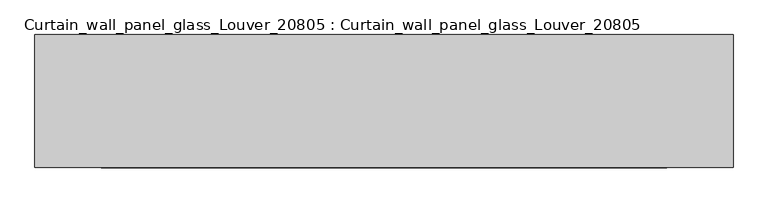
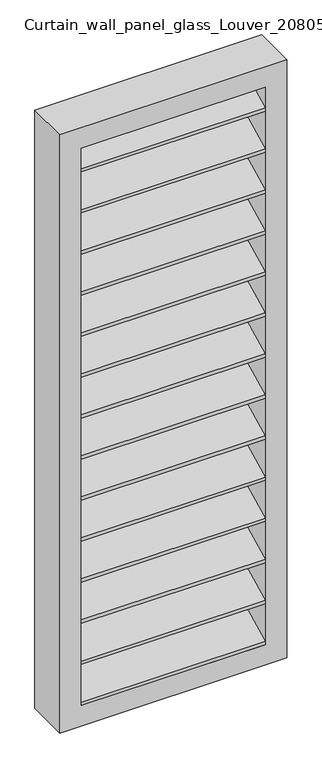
"""IFC4 building model written with IfcOpenShell, lengths in millimetres: plate geometry, Curtain_wall_panel_glass_Louver_20805 : Curtain_wall_panel_glass_Louver_20805."""

from ifc_helpers import new_model, si_unit, frame, origin, place, context, project, spatial, polyline, outline, extrude, source, transform, mapped, element, save


def curtain_wall_panel_glass_louver_20805_curtain_wall_panel_0f8e40a1(model_context):
    return source(origin(), model_context, "Body", "SweptSolid", [
        extrude(outline(polyline([(200.0, 199.3849981), (0.0, 100.0), (0.0, 116.7499328), (200.0, 216.1349309), (200.0, 199.3849981)])), frame((-425.0, 0.0, 0.0), z_axis=(1.0, 0.0, 0.0), x_axis=(0.0, 1.0, 0.0)), (0.0, 0.0, 1.0), 850.0),
        extrude(outline(polyline([(200.0, 2808.2500672), (0.0, 2708.8650691), (0.0, 2725.6150019), (200.0, 2825.0), (200.0, 2808.2500672)])), frame((-425.0, 0.0, 0.0), z_axis=(1.0, 0.0, 0.0), x_axis=(0.0, 1.0, 0.0)), (0.0, 0.0, 1.0), 850.0),
        extrude(outline(polyline([(200.0, 400.0669265), (0.0, 300.6819284), (0.0, 317.4318612), (200.0, 416.8168593), (200.0, 400.0669265)])), frame((-425.0, 0.0, 0.0), z_axis=(1.0, 0.0, 0.0), x_axis=(0.0, 1.0, 0.0)), (0.0, 0.0, 1.0), 850.0),
        extrude(outline(polyline([(200.0, 600.7488549), (0.0, 501.3638568), (0.0, 518.1137896), (200.0, 617.4987877), (200.0, 600.7488549)])), frame((-425.0, 0.0, 0.0), z_axis=(1.0, 0.0, 0.0), x_axis=(0.0, 1.0, 0.0)), (0.0, 0.0, 1.0), 850.0),
        extrude(outline(polyline([(200.0, 801.4307833), (0.0, 702.0457852), (0.0, 718.795718), (200.0, 818.1807161), (200.0, 801.4307833)])), frame((-425.0, 0.0, 0.0), z_axis=(1.0, 0.0, 0.0), x_axis=(0.0, 1.0, 0.0)), (0.0, 0.0, 1.0), 850.0),
        extrude(outline(polyline([(200.0, 1002.1127117), (0.0, 902.7277136), (0.0, 919.4776464), (200.0, 1018.8626445), (200.0, 1002.1127117)])), frame((-425.0, 0.0, 0.0), z_axis=(1.0, 0.0, 0.0), x_axis=(0.0, 1.0, 0.0)), (0.0, 0.0, 1.0), 850.0),
        extrude(outline(polyline([(200.0, 1202.79464), (0.0, 1103.4096419), (0.0, 1120.1595748), (200.0, 1219.5445729), (200.0, 1202.79464)])), frame((-425.0, 0.0, 0.0), z_axis=(1.0, 0.0, 0.0), x_axis=(0.0, 1.0, 0.0)), (0.0, 0.0, 1.0), 850.0),
        extrude(outline(polyline([(200.0, 1403.4765684), (0.0, 1304.0915703), (0.0, 1320.8415032), (200.0, 1420.2265013), (200.0, 1403.4765684)])), frame((-425.0, 0.0, 0.0), z_axis=(1.0, 0.0, 0.0), x_axis=(0.0, 1.0, 0.0)), (0.0, 0.0, 1.0), 850.0),
        extrude(outline(polyline([(200.0, 1604.1584968), (0.0, 1504.7734987), (0.0, 1521.5234316), (200.0, 1620.9084297), (200.0, 1604.1584968)])), frame((-425.0, 0.0, 0.0), z_axis=(1.0, 0.0, 0.0), x_axis=(0.0, 1.0, 0.0)), (0.0, 0.0, 1.0), 850.0),
        extrude(outline(polyline([(200.0, 1804.8404252), (0.0, 1705.4554271), (0.0, 1722.20536), (200.0, 1821.5903581), (200.0, 1804.8404252)])), frame((-425.0, 0.0, 0.0), z_axis=(1.0, 0.0, 0.0), x_axis=(0.0, 1.0, 0.0)), (0.0, 0.0, 1.0), 850.0),
        extrude(outline(polyline([(200.0, 2005.5223536), (0.0, 1906.1373555), (0.0, 1922.8872883), (200.0, 2022.2722864), (200.0, 2005.5223536)])), frame((-425.0, 0.0, 0.0), z_axis=(1.0, 0.0, 0.0), x_axis=(0.0, 1.0, 0.0)), (0.0, 0.0, 1.0), 850.0),
        extrude(outline(polyline([(200.0, 2206.204282), (0.0, 2106.8192839), (0.0, 2123.5692167), (200.0, 2222.9542148), (200.0, 2206.204282)])), frame((-425.0, 0.0, 0.0), z_axis=(1.0, 0.0, 0.0), x_axis=(0.0, 1.0, 0.0)), (0.0, 0.0, 1.0), 850.0),
        extrude(outline(polyline([(200.0, 2406.8862104), (0.0, 2307.5012123), (0.0, 2324.2511451), (200.0, 2423.6361432), (200.0, 2406.8862104)])), frame((-425.0, 0.0, 0.0), z_axis=(1.0, 0.0, 0.0), x_axis=(0.0, 1.0, 0.0)), (0.0, 0.0, 1.0), 850.0),
        extrude(outline(polyline([(200.0, 2607.5681388), (0.0, 2508.1831407), (0.0, 2524.9330735), (200.0, 2624.3180716), (200.0, 2607.5681388)])), frame((-425.0, 0.0, 0.0), z_axis=(1.0, 0.0, 0.0), x_axis=(0.0, 1.0, 0.0)), (0.0, 0.0, 1.0), 850.0),
        extrude(outline(polyline([(2925.0, -525.0), (0.0, -525.0), (0.0, 525.0), (2925.0, 525.0), (2925.0, -525.0)]), holes=[polyline([(2825.0, -425.0), (2825.0, 425.0), (100.0, 425.0), (100.0, -425.0), (2825.0, -425.0)])]), frame((0.0, 0.0, 0.0), z_axis=(0.0, 1.0, 0.0), x_axis=(0.0, 0.0, 1.0)), (0.0, 0.0, 1.0), 200.0),
    ])


if __name__ == "__main__":
    model = new_model("IFC4")
    model_context = context("Model", 3, world=origin())
    ifc_project = project(units=[si_unit("LENGTHUNIT", "METRE", prefix="MILLI")], contexts=[model_context])
    site = spatial("IfcSite", under=ifc_project)
    building = spatial("IfcBuilding", under=site)
    placement = place(None, origin())
    curtain_wall_panel_glass_louver_20805_curtain_wall_panel_shape = curtain_wall_panel_glass_louver_20805_curtain_wall_panel_0f8e40a1(model_context)
    element("IfcPlate", 1, ObjectType="Curtain_wall_panel_glass_Louver_20805 : Curtain_wall_panel_glass_Louver_20805", at=placement, inside=building, context=model_context, shape_type="MappedRepresentation", body=[
        mapped(curtain_wall_panel_glass_louver_20805_curtain_wall_panel_shape, transform((0.0, 0.0, 0.0), x_axis=(1.0, 0.0, 0.0), y_axis=(0.0, 1.0, 0.0), z_axis=(0.0, 0.0, 1.0))),
    ])
    save(model, "model.ifc")
